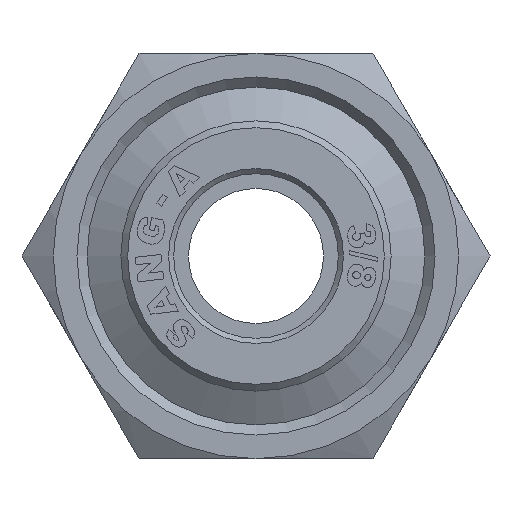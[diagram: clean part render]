
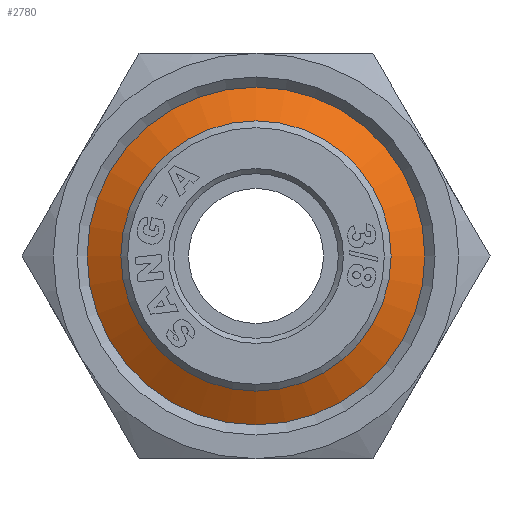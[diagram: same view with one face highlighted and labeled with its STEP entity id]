
A CAD part, left-side view. The second image highlights one B-rep face of the part: STEP entity #2780.
In plain terms, the highlighted conical face has half-angle 60 degrees and reference radius 8.875 mm.
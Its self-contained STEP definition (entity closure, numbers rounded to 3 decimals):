
#2746=CARTESIAN_POINT('',(2.5,7.75,0.0));
#2747=VERTEX_POINT('',#2746);
#2748=CARTESIAN_POINT('',(2.5,0.0,0.0));
#2749=DIRECTION('',(1.0,0.0,0.0));
#2750=DIRECTION('',(0.0,1.0,0.0));
#2751=AXIS2_PLACEMENT_3D('',#2748,#2749,#2750);
#2752=CIRCLE('',#2751,7.75);
#2753=EDGE_CURVE('',#2747,#2747,#2752,.T.);
#2761=CARTESIAN_POINT('',(3.15,0.0,0.0));
#2762=DIRECTION('',(1.0,0.0,0.0));
#2763=DIRECTION('',(0.0,1.0,0.0));
#2764=AXIS2_PLACEMENT_3D('',#2761,#2762,#2763);
#2765=CONICAL_SURFACE('',#2764,8.875,60.);
#2766=CARTESIAN_POINT('',(3.799,10.,0.0));
#2767=VERTEX_POINT('',#2766);
#2768=CARTESIAN_POINT('',(3.799,0.0,0.0));
#2769=DIRECTION('',(1.0,0.0,0.0));
#2770=DIRECTION('',(0.0,1.0,0.0));
#2771=AXIS2_PLACEMENT_3D('',#2768,#2769,#2770);
#2772=CIRCLE('',#2771,10.);
#2773=EDGE_CURVE('',#2767,#2767,#2772,.T.);
#2774=ORIENTED_EDGE('',*,*,#2773,.F.);
#2775=EDGE_LOOP('',(#2774));
#2776=FACE_OUTER_BOUND('',#2775,.T.);
#2777=ORIENTED_EDGE('',*,*,#2753,.T.);
#2778=EDGE_LOOP('',(#2777));
#2779=FACE_BOUND('',#2778,.T.);
#2780=ADVANCED_FACE('',(#2776,#2779),#2765,.T.);
